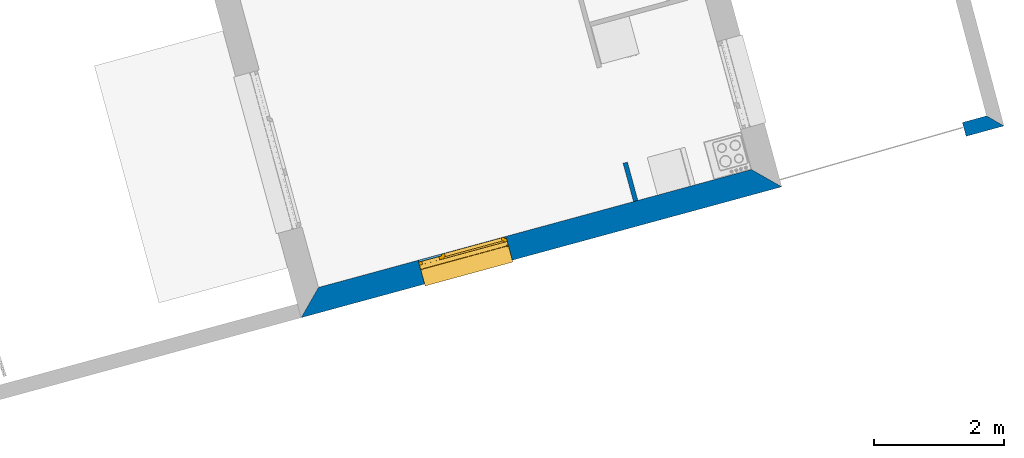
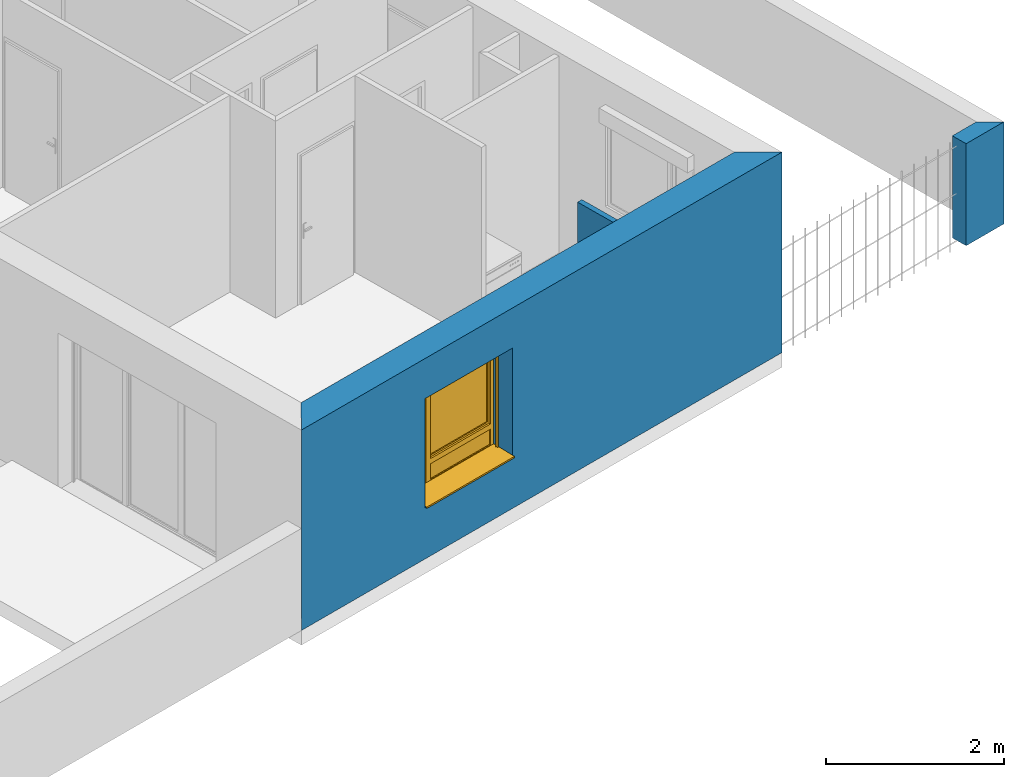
# One storey, part 70 of 195: 3 walls, 1 window, 1 opening.
"""IFC2X3 building model written with IfcOpenShell, lengths in metres."""

from ifc_helpers import new_model, entity, si_unit, converted_unit, derived_unit, money_unit, direction, frame, origin_with_axes, place, context, subcontext, project, spatial, polyline, outline, extrude, open_shell, faceted_brep, surface_model, source, transform, mapped, material, layer, layer_set, layer_usage, type_object, element, fill, save


model = new_model("IFC2X3")

# Units and contexts
model_context = context("Model", 3, precision=1e-05, world=origin_with_axes(), true_north=direction((0.0, 1.0)))
body_context = subcontext(model_context, "Body", "Model", "MODEL_VIEW")
ifc_project = project(units=[si_unit("LENGTHUNIT", "METRE"), si_unit("AREAUNIT", "SQUARE_METRE"), si_unit("VOLUMEUNIT", "CUBIC_METRE"), converted_unit("PLANEANGLEUNIT", "DEGREE", entity("IfcPlaneAngleMeasure", 0.0174532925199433), si_unit("PLANEANGLEUNIT", "RADIAN"), dimensions=[0, 0, 0, 0, 0, 0, 0]), money_unit("CHF"), converted_unit("TIMEUNIT", "Year", entity("IfcTimeMeasure", 31557600.0), si_unit("TIMEUNIT", "SECOND"), dimensions=[0, 0, 1, 0, 0, 0, 0]), si_unit("MASSUNIT", "GRAM", prefix="KILO"), si_unit("THERMODYNAMICTEMPERATUREUNIT", "DEGREE_CELSIUS"), si_unit("LUMINOUSINTENSITYUNIT", "LUMEN"), si_unit("ENERGYUNIT", "JOULE", prefix="MEGA"), derived_unit("THERMALCONDUCTANCEUNIT", [(si_unit("POWERUNIT", "WATT"), 1), (si_unit("LENGTHUNIT", "METRE"), -1), (si_unit("THERMODYNAMICTEMPERATUREUNIT", "KELVIN"), -1)]), derived_unit("SPECIFICHEATCAPACITYUNIT", [(si_unit("ENERGYUNIT", "JOULE"), 1), (si_unit("MASSUNIT", "GRAM", prefix="KILO"), -1), (si_unit("THERMODYNAMICTEMPERATUREUNIT", "KELVIN"), -1)]), derived_unit("MASSDENSITYUNIT", [(si_unit("MASSUNIT", "GRAM", prefix="KILO"), 1), (si_unit("VOLUMEUNIT", "CUBIC_METRE"), -1)])], contexts=[model_context])

# Site, building, storey
site_placement = place(None, origin_with_axes())
site = spatial("IfcSite", under=ifc_project, at=site_placement, Name="Site", CompositionType="ELEMENT")
building_placement = place(site_placement, origin_with_axes())
building = spatial("IfcBuilding", under=site, at=building_placement, Name="Bâtiment", CompositionType="ELEMENT")
storey_placement = place(building_placement, origin_with_axes())
storey = spatial("IfcBuildingStorey", under=building, at=storey_placement, Name="rdc", CompositionType="ELEMENT", Elevation=0.0)

# Wall
ifc_material_1 = material(Name="Hachure solide 268963992")
ifc_layer_1 = layer(ifc_material_1, 0.07, ventilated="UNKNOWN")
ifc_layer_set_1 = layer_set([ifc_layer_1], Name="Cloison 70 0826278243")
ifc_layer_usage_1 = layer_usage(ifc_layer_set_1, "AXIS2", "NEGATIVE", 0.0)
wall_type_1 = type_object("IfcWallType", Name="Cloison 70 0826278243 70", PredefinedType="NOTDEFINED")
wall_1_placement = place(storey_placement, frame((9594.76418549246, -1057.033527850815, 57.7), z_axis=(0.0, 0.0, 1.0), x_axis=(0.2627340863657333, -0.9648682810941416, 0.0)))
element("IfcWallStandardCase", 1, at=wall_1_placement, inside=storey, type_object=wall_type_1, material=ifc_layer_usage_1, Name="Mur-149", context=body_context, shape_type="SweptSolid", body=[
    extrude(outline(polyline([(0.0, -0.07000000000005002), (0.6120429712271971, -0.07000000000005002), (0.6120429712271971, 0.0), (0.0, 0.0), (0.0, -0.07000000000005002)])), origin_with_axes(), (0.0, 0.0, 1.0), 2.7),
])

# Wall, opening, window
ifc_material_2 = material(Name="Parpaing 312445824")
ifc_layer_2 = layer(ifc_material_2, 0.22, ventilated="UNKNOWN")
ifc_material_3 = material(Name="Isolant styromousse 301821074")
ifc_layer_3 = layer(ifc_material_3, 0.16, ventilated="UNKNOWN")
ifc_layer_set_2 = layer_set([ifc_layer_2, ifc_layer_3], Name="isol int 22+16 0836643197")
ifc_layer_usage_2 = layer_usage(ifc_layer_set_2, "AXIS2", "NEGATIVE", 0.0)
wall_type_2 = type_object("IfcWallType", Name="isol int 22+16 0836643197 380", PredefinedType="NOTDEFINED")
wall_2_placement = place(storey_placement, frame((9597.140845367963, -1057.414526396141, 57.7), z_axis=(0.0, 0.0, 1.0), x_axis=(-0.9648682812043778, -0.2627340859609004, 0.0)))
wall_2 = element("IfcWallStandardCase", 2, at=wall_2_placement, inside=storey, type_object=wall_type_2, material=ifc_layer_usage_2, Name="Mur-113", context=body_context, shape_type="SweptSolid", body=[
    extrude(outline(polyline([(0.3799999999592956, -0.3799999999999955), (7.289914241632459, -0.3799999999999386), (7.669914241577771, 0.0), (0.0, 0.0), (0.3799999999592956, -0.3799999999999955)])), origin_with_axes(), (0.0, 0.0, 1.0), 2.75),
])
opening_placement = place(wall_2_placement, frame((4.999563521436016, 0.0, 0.7000000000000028), z_axis=(0.0, 0.0, 1.0), x_axis=(1.0, 0.0, 0.0)))
opening = element("IfcOpeningElement", 3, at=opening_placement, cuts=wall_2, Name="Fen-045", context=body_context, shape_type="Brep", body=[
    faceted_brep([(-0.7000000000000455, -0.2999999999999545, 1.5), (-0.7000000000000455, -0.2200000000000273, 1.5), (-0.7000000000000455, 1.945352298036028, 1.5), (-0.7000000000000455, 1.945352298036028, 0.0), (-0.7000000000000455, -0.2999999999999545, 0.0), (-0.7000000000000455, -0.4799999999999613, 1.5), (-0.7000000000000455, -0.4799999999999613, 1.700000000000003), (-0.7000000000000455, -0.2200000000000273, 1.700000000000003), (0.6999999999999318, -0.2200000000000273, 1.5), (0.6999999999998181, 1.945352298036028, 1.5), (0.6999999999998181, 1.945352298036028, 0.0), (0.7000000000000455, -0.3000000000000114, 0.0), (-0.7000000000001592, -2.325352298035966, 0.0), (-0.7000000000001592, -2.325352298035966, 1.5), (0.6999999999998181, -0.4800000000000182, 1.5), (0.6999999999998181, -0.4800000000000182, 1.700000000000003), (0.6999999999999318, -0.2200000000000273, 1.700000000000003), (0.6999999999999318, -0.3000000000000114, 1.5), (0.6999999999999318, -2.325352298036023, 0.0), (0.6999999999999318, -2.325352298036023, 1.5)], [[[0, 1, 2, 3, 4]], [[1, 0, 5, 6, 7]], [[1, 8, 9, 2]], [[9, 10, 3, 2]], [[11, 4, 3, 10]], [[5, 0, 4, 12, 13]], [[5, 14, 15, 6]], [[15, 16, 7, 6]], [[8, 1, 7, 16]], [[8, 17, 11, 10, 9]], [[4, 11, 18, 12]], [[13, 12, 18, 19]], [[14, 5, 13, 19]], [[17, 8, 16, 15, 14]], [[17, 14, 19, 18, 11]]]),
])
window_style = type_object("IfcWindowStyle", Name="Fenêtre variable 27", ConstructionType="NOTDEFINED", OperationType="TRIPLE_PANEL_LEFT", ParameterTakesPrecedence=False, Sizeable=False)
shared_shape = source(origin_with_axes(), body_context, "Body", "SurfaceModel", [
    surface_model("IfcShellBasedSurfaceModel", [(0.7, -0.05100000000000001, 0.05), (-0.7, -0.05100000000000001, 0.05000000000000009), (-0.7, -0.05100000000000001, 0.04000000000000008), (0.7, -0.05100000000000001, 0.04), (-0.7, -0.3799999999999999, 0.02900000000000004), (0.7, -0.3799999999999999, 0.02899999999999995), (-0.7, -0.3799999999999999, 0.00900000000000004), (0.7, -0.3799999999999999, 0.008999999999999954), (-0.7, -0.3699999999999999, 0.01900000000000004), (0.7, -0.3699999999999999, 0.01899999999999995)], [open_shell([[[0, 1, 2, 3]], [[3, 2, 4, 5]], [[5, 4, 6, 7]], [[7, 6, 8, 9]]])]),
    faceted_brep([(0.7, -0.13, 1.7), (0.7, 0.13, 1.7), (0.697, 0.13, 1.7), (0.697, -0.13, 1.7), (0.7, -0.13, 1.5), (0.7, 0.13, 1.5), (0.697, 0.13, 1.5), (0.697, -0.13, 1.5)], [[[0, 1, 2, 3]], [[0, 4, 5, 1]], [[1, 5, 6, 2]], [[3, 2, 6, 7]], [[4, 0, 3, 7]], [[5, 4, 7, 6]]]),
    faceted_brep([(-0.6970000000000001, -0.1299999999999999, 1.7), (-0.6970000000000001, 0.1300000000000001, 1.7), (-0.7000000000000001, 0.1300000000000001, 1.7), (-0.7000000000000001, -0.1299999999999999, 1.7), (-0.6970000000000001, -0.1299999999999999, 1.5), (-0.6970000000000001, 0.1300000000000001, 1.5), (-0.7000000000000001, 0.1300000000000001, 1.5), (-0.7000000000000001, -0.1299999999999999, 1.5)], [[[0, 1, 2, 3]], [[0, 4, 5, 1]], [[1, 5, 6, 2]], [[3, 2, 6, 7]], [[4, 0, 3, 7]], [[5, 4, 7, 6]]]),
    faceted_brep([(0.697, -0.13, 1.5), (0.697, -0.13, 1.7), (-0.697, -0.1299999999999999, 1.7), (-0.697, -0.1299999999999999, 1.5), (0.697, -0.127, 1.5), (0.697, -0.127, 1.697), (0.697, 0.127, 1.697), (0.697, 0.127, 1.503), (0.697, -0.108, 1.503), (0.697, -0.108, 1.5), (0.697, 0.13, 1.5), (0.697, 0.13, 1.7), (-0.697, 0.1300000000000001, 1.7), (-0.697, 0.1300000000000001, 1.5), (-0.697, -0.1079999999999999, 1.5), (-0.697, -0.1079999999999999, 1.503), (-0.697, 0.1270000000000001, 1.503), (-0.697, 0.1270000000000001, 1.697), (-0.697, -0.1269999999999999, 1.697), (-0.697, -0.1269999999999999, 1.5)], [[[0, 1, 2, 3]], [[0, 4, 5, 6, 7, 8, 9, 10, 11, 1]], [[1, 11, 12, 2]], [[3, 2, 12, 13, 14, 15, 16, 17, 18, 19]], [[4, 0, 3, 19]], [[5, 4, 19, 18]], [[6, 5, 18, 17]], [[7, 6, 17, 16]], [[8, 7, 16, 15]], [[9, 8, 15, 14]], [[10, 9, 14, 13]], [[11, 10, 13, 12]]]),
    faceted_brep([(0.694, -0.08075423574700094, 1.585760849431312), (0.694, -0.07705479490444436, 1.571954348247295), (0.694, -0.07101408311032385, 1.559), (0.694, -0.06281564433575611, 1.547291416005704), (0.694, -0.05270858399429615, 1.537184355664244), (0.694, -0.04099999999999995, 1.528985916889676), (0.694, -0.02804565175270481, 1.522945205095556), (0.694, -0.01423915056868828, 1.519245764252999), (0.694, 0.0, 1.518), (0.694, 0.01423915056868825, 1.519245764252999), (0.694, 0.02804565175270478, 1.522945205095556), (0.694, 0.04099999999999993, 1.528985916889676), (0.694, 0.05270858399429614, 1.537184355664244), (0.694, 0.06281564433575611, 1.547291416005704), (0.694, 0.07101408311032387, 1.559), (0.694, 0.07705479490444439, 1.571954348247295), (0.694, 0.08075423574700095, 1.585760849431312), (0.694, 0.0819999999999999, 1.6), (0.694, 0.08075423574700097, 1.614239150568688), (0.694, 0.0770547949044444, 1.628045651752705), (0.694, 0.07101408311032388, 1.641), (0.694, 0.06281564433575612, 1.652708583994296), (0.694, 0.05270858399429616, 1.662815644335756), (0.694, 0.04099999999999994, 1.671014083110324), (0.694, 0.02804565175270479, 1.677054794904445), (0.694, 0.01423915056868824, 1.680754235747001), (0.694, 0.0, 1.682), (0.694, -0.01423915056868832, 1.680754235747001), (0.694, -0.02804565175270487, 1.677054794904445), (0.694, -0.04100000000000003, 1.671014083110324), (0.694, -0.05270858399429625, 1.662815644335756), (0.694, -0.06281564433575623, 1.652708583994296), (0.694, -0.07101408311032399, 1.641), (0.694, -0.07705479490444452, 1.628045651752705), (0.694, -0.0807542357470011, 1.614239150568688), (0.694, -0.08200000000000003, 1.6), (-0.694, -0.08075423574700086, 1.585760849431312), (-0.694, -0.07705479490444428, 1.571954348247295), (-0.694, -0.07101408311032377, 1.559), (-0.694, -0.06281564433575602, 1.547291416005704), (-0.694, -0.05270858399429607, 1.537184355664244), (-0.694, -0.04099999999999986, 1.528985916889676), (-0.694, -0.02804565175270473, 1.522945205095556), (-0.694, -0.0142391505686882, 1.519245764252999), (-0.694, 0.0, 1.518), (-0.694, 0.01423915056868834, 1.519245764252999), (-0.694, 0.02804565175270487, 1.522945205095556), (-0.694, 0.04100000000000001, 1.528985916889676), (-0.694, 0.05270858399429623, 1.537184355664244), (-0.694, 0.06281564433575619, 1.547291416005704), (-0.694, 0.07101408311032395, 1.559), (-0.694, 0.07705479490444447, 1.571954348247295), (-0.694, 0.08075423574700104, 1.585760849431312), (-0.694, 0.08199999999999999, 1.6), (-0.694, 0.08075423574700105, 1.614239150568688), (-0.694, 0.07705479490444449, 1.628045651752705), (-0.694, 0.07101408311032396, 1.641), (-0.694, 0.0628156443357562, 1.652708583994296), (-0.694, 0.05270858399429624, 1.662815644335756), (-0.694, 0.04100000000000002, 1.671014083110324), (-0.694, 0.02804565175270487, 1.677054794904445), (-0.694, 0.01423915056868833, 1.680754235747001), (-0.694, 0.0, 1.682), (-0.694, -0.01423915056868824, 1.680754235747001), (-0.694, -0.02804565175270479, 1.677054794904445), (-0.694, -0.04099999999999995, 1.671014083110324), (-0.694, -0.05270858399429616, 1.662815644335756), (-0.694, -0.06281564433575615, 1.652708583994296), (-0.694, -0.07101408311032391, 1.641), (-0.694, -0.07705479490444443, 1.628045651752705), (-0.694, -0.08075423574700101, 1.614239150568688), (-0.694, -0.08199999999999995, 1.6)], [[[0, 1, 2, 3, 4, 5, 6, 7, 8, 9, 10, 11, 12, 13, 14, 15, 16, 17, 18, 19, 20, 21, 22, 23, 24, 25, 26, 27, 28, 29, 30, 31, 32, 33, 34, 35]], [[1, 0, 36, 37]], [[2, 1, 37, 38]], [[3, 2, 38, 39]], [[4, 3, 39, 40]], [[5, 4, 40, 41]], [[6, 5, 41, 42]], [[7, 6, 42, 43]], [[8, 7, 43, 44]], [[9, 8, 44, 45]], [[10, 9, 45, 46]], [[11, 10, 46, 47]], [[12, 11, 47, 48]], [[13, 12, 48, 49]], [[14, 13, 49, 50]], [[15, 14, 50, 51]], [[16, 15, 51, 52]], [[17, 16, 52, 53]], [[18, 17, 53, 54]], [[19, 18, 54, 55]], [[20, 19, 55, 56]], [[21, 20, 56, 57]], [[22, 21, 57, 58]], [[23, 22, 58, 59]], [[24, 23, 59, 60]], [[25, 24, 60, 61]], [[26, 25, 61, 62]], [[27, 26, 62, 63]], [[28, 27, 63, 64]], [[29, 28, 64, 65]], [[30, 29, 65, 66]], [[31, 30, 66, 67]], [[32, 31, 67, 68]], [[33, 32, 68, 69]], [[34, 33, 69, 70]], [[35, 34, 70, 71]], [[0, 35, 71, 36]], [[36, 71, 70, 69, 68, 67, 66, 65, 64, 63, 62, 61, 60, 59, 58, 57, 56, 55, 54, 53, 52, 51, 50, 49, 48, 47, 46, 45, 44, 43, 42, 41, 40, 39, 38, 37]]]),
    faceted_brep([(-0.7, -0.105, 0.03), (-0.7, -0.13, 0.03), (-0.7, -0.1299999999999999, 1.5), (-0.7, -0.1049999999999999, 1.5), (-0.6749999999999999, -0.105, 0.03), (-0.6749999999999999, -0.108, 0.03), (-0.697, -0.108, 0.03), (-0.697, -0.127, 0.03), (-0.6749999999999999, -0.127, 0.03), (-0.6749999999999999, -0.13, 0.03), (-0.6749999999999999, -0.1299999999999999, 1.5), (-0.6749999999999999, -0.1269999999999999, 1.5), (-0.697, -0.1269999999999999, 1.5), (-0.697, -0.1079999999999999, 1.5), (-0.6749999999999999, -0.1079999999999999, 1.5), (-0.6749999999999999, -0.1049999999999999, 1.5)], [[[0, 1, 2, 3]], [[0, 4, 5, 6, 7, 8, 9, 1]], [[1, 9, 10, 2]], [[3, 2, 10, 11, 12, 13, 14, 15]], [[4, 0, 3, 15]], [[5, 4, 15, 14]], [[6, 5, 14, 13]], [[7, 6, 13, 12]], [[8, 7, 12, 11]], [[9, 8, 11, 10]]]),
    faceted_brep([(0.7, -0.105, 0.03), (0.7, -0.1049999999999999, 1.5), (0.7, -0.1299999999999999, 1.5), (0.7, -0.13, 0.03), (0.6749999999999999, -0.105, 0.03), (0.6749999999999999, -0.1049999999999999, 1.5), (0.6749999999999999, -0.1079999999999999, 1.5), (0.697, -0.1079999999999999, 1.5), (0.697, -0.1269999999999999, 1.5), (0.6749999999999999, -0.1269999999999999, 1.5), (0.6749999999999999, -0.1299999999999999, 1.5), (0.6749999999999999, -0.13, 0.03), (0.6749999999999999, -0.127, 0.03), (0.697, -0.127, 0.03), (0.697, -0.108, 0.03), (0.6749999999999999, -0.108, 0.03)], [[[0, 1, 2, 3]], [[4, 5, 1, 0]], [[1, 5, 6, 7, 8, 9, 10, 2]], [[3, 2, 10, 11]], [[0, 3, 11, 12, 13, 14, 15, 4]], [[15, 6, 5, 4]], [[14, 7, 6, 15]], [[13, 8, 7, 14]], [[12, 9, 8, 13]], [[11, 10, 9, 12]]]),
    surface_model("IfcShellBasedSurfaceModel", [(0.697, -0.115, 1.6), (-0.697, -0.1149999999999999, 1.6), (-0.697, -0.12, 1.6), (0.697, -0.12, 1.6), (0.697, -0.115, 1.6), (0.697, -0.12, 1.6), (-0.697, -0.1199999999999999, 1.6), (-0.697, -0.1149999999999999, 1.6)], [open_shell([[[0, 1, 2, 3]], [[4, 5, 6, 7]]])]),
    faceted_brep([(0.697, -0.115, 1.6), (0.697, -0.1166666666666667, 1.583333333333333), (-0.697, -0.1166666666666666, 1.583333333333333), (-0.697, -0.1149999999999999, 1.6), (0.697, -0.12, 1.6), (0.697, -0.1216666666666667, 1.583333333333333), (0.697, -0.1216666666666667, 1.566666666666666), (0.697, -0.12, 1.55), (0.697, -0.115, 1.55), (0.697, -0.1166666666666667, 1.566666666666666), (-0.697, -0.1166666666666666, 1.566666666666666), (-0.697, -0.1149999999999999, 1.55), (-0.697, -0.1199999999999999, 1.55), (-0.697, -0.1216666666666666, 1.566666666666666), (-0.697, -0.1216666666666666, 1.583333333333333), (-0.697, -0.1199999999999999, 1.6)], [[[0, 1, 2, 3]], [[0, 4, 5, 6, 7, 8, 9, 1]], [[1, 9, 10, 2]], [[3, 2, 10, 11, 12, 13, 14, 15]], [[4, 0, 3, 15]], [[5, 4, 15, 14]], [[6, 5, 14, 13]], [[7, 6, 13, 12]], [[8, 7, 12, 11]], [[9, 8, 11, 10]]]),
    faceted_brep([(0.697, -0.115, 1.55), (0.697, -0.1166666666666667, 1.533333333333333), (-0.697, -0.1166666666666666, 1.533333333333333), (-0.697, -0.1149999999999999, 1.55), (0.697, -0.12, 1.55), (0.697, -0.1216666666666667, 1.533333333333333), (0.697, -0.1216666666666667, 1.516666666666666), (0.697, -0.12, 1.5), (0.697, -0.115, 1.5), (0.697, -0.1166666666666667, 1.516666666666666), (-0.697, -0.1166666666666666, 1.516666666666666), (-0.697, -0.1149999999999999, 1.5), (-0.697, -0.1199999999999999, 1.5), (-0.697, -0.1216666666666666, 1.516666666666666), (-0.697, -0.1216666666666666, 1.533333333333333), (-0.697, -0.1199999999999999, 1.55)], [[[0, 1, 2, 3]], [[0, 4, 5, 6, 7, 8, 9, 1]], [[1, 9, 10, 2]], [[3, 2, 10, 11, 12, 13, 14, 15]], [[4, 0, 3, 15]], [[5, 4, 15, 14]], [[6, 5, 14, 13]], [[7, 6, 13, 12]], [[8, 7, 12, 11]], [[9, 8, 11, 10]]]),
    faceted_brep([(0.6749999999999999, 0.0, 1.45), (0.6749999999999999, -0.02500000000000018, 1.45), (0.6499999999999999, -0.02500000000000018, 1.45), (0.6499999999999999, -0.05000000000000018, 1.45), (0.7, -0.05000000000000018, 1.45), (0.7, 0.0, 1.45), (0.6749999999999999, 0.0, 0.3099999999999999), (0.6749999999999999, -0.02500000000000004, 0.3099999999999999), (0.6499999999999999, -0.02500000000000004, 0.335), (0.6499999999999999, -0.02500000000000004, 0.3099999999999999), (0.6499999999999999, -0.05000000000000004, 0.335), (0.6499999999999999, -0.05000000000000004, 0.265), (0.6499999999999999, -0.05000000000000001, 0.05000000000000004), (0.7, -0.05000000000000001, 0.05000000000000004), (0.7, 0.0, 0.05000000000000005), (0.6499999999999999, 0.0, 0.05000000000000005), (0.6499999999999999, 0.0, 0.265), (0.6499999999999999, 0.0, 0.3099999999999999)], [[[0, 1, 2, 3, 4, 5]], [[1, 0, 6, 7]], [[8, 2, 1, 7, 9]], [[2, 8, 10, 3]], [[10, 11, 12, 13, 4, 3]], [[5, 4, 13, 14]], [[6, 0, 5, 14, 15, 16, 17]], [[6, 17, 9, 7]], [[9, 17, 16, 11, 10, 8]], [[15, 12, 11, 16]], [[14, 13, 12, 15]]]),
    faceted_brep([(-0.3068894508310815, -0.02500000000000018, 1.45), (-0.3318894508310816, -0.02500000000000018, 1.45), (-0.3318894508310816, 0.0, 1.45), (-0.3768894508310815, 0.0, 1.45), (-0.3768894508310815, -0.05000000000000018, 1.45), (-0.3068894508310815, -0.05000000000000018, 1.45), (-0.3068894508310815, -0.02500000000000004, 0.335), (-0.3068894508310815, -0.02500000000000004, 0.3099999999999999), (-0.3318894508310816, -0.02500000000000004, 0.3099999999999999), (-0.3318894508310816, 0.0, 0.3099999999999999), (-0.3068894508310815, 0.0, 0.3099999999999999), (-0.3068894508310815, 0.0, 0.265), (-0.3068894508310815, 0.0, 0.05000000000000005), (-0.3768894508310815, 0.0, 0.05000000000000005), (-0.3768894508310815, -0.05000000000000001, 0.05000000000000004), (-0.3068894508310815, -0.05000000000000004, 0.265), (-0.3068894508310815, -0.05000000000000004, 0.335), (-0.3068894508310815, -0.05000000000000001, 0.05000000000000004)], [[[0, 1, 2, 3, 4, 5]], [[1, 0, 6, 7, 8]], [[9, 2, 1, 8]], [[9, 10, 11, 12, 13, 3, 2]], [[13, 14, 4, 3]], [[15, 16, 5, 4, 14, 17]], [[6, 0, 5, 16]], [[7, 6, 16, 15, 11, 10]], [[10, 9, 8, 7]], [[11, 15, 17, 12]], [[12, 17, 14, 13]]]),
    faceted_brep([(0.6499999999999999, -0.02500000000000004, 0.335), (-0.3068894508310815, -0.02500000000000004, 0.335), (-0.3068894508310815, -0.05000000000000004, 0.335), (0.6499999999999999, -0.05000000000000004, 0.335), (-0.3068894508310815, -0.02500000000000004, 0.3099999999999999), (0.6499999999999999, -0.02500000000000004, 0.3099999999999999), (-0.3068894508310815, 0.0, 0.3099999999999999), (-0.3068894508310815, 0.0, 0.265), (-0.3068894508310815, -0.05000000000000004, 0.265), (0.6499999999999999, -0.05000000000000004, 0.265), (0.6499999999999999, 0.0, 0.265), (0.6499999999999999, 0.0, 0.3099999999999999)], [[[0, 1, 2, 3]], [[4, 1, 0, 5]], [[4, 6, 7, 8, 2, 1]], [[2, 8, 9, 3]], [[5, 0, 3, 9, 10, 11]], [[11, 6, 4, 5]], [[6, 11, 10, 7]], [[10, 9, 8, 7]]]),
    faceted_brep([(0.6749999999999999, 0.0, 1.45), (0.6749999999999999, 0.0, 1.475), (-0.3318894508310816, 0.0, 1.475), (-0.3318894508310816, 0.0, 1.45), (-0.3768894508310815, 0.0, 1.45), (-0.6499999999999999, 0.0, 1.45), (-0.7, 0.0, 1.45), (-0.7, 0.0, 1.5), (0.7, 0.0, 1.5), (0.7, 0.0, 1.45), (0.6749999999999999, -0.02500000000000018, 1.45), (0.6749999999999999, -0.02500000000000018, 1.475), (-0.3318894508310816, -0.02500000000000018, 1.475), (-0.3318894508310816, -0.02500000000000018, 1.45), (-0.3068894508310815, -0.02500000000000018, 1.45), (-0.3068894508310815, -0.05000000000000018, 1.45), (-0.3768894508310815, -0.05000000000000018, 1.45), (-0.6499999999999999, -0.05000000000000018, 1.45), (-0.7, -0.05000000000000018, 1.45), (-0.7, -0.05000000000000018, 1.5), (0.7, -0.05000000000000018, 1.5), (0.7, -0.05000000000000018, 1.45), (0.6499999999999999, -0.05000000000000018, 1.45), (0.6499999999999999, -0.02500000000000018, 1.45)], [[[0, 1, 2, 3, 4, 5, 6, 7, 8, 9]], [[1, 0, 10, 11]], [[2, 1, 11, 12]], [[3, 2, 12, 13]], [[13, 14, 15, 16, 4, 3]], [[4, 16, 17, 5]], [[5, 17, 18, 6]], [[6, 18, 19, 7]], [[7, 19, 20, 8]], [[8, 20, 21, 9]], [[10, 0, 9, 21, 22, 23]], [[14, 13, 12, 11, 10, 23]], [[14, 23, 22, 15]], [[16, 15, 22, 21, 20, 19, 18, 17]]]),
    faceted_brep([(-0.6499999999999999, -0.05000000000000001, 0.05), (-0.7, -0.05000000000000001, 0.05), (-0.7, 0.0, 0.05000000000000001), (-0.6499999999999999, 0.0, 0.05000000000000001), (-0.6499999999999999, -0.05000000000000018, 1.45), (-0.7, -0.05000000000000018, 1.45), (-0.7, 0.0, 1.45), (-0.6499999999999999, 0.0, 1.45)], [[[0, 1, 2, 3]], [[0, 4, 5, 1]], [[1, 5, 6, 2]], [[3, 2, 6, 7]], [[4, 0, 3, 7]], [[5, 4, 7, 6]]]),
    faceted_brep([(0.6499999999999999, -0.05000000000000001, 0.05), (0.7, -0.05000000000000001, 0.05), (0.7, 0.0, 0.05000000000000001), (0.6499999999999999, 0.0, 0.05000000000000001), (-0.3068894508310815, -0.05000000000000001, 0.05), (-0.3768894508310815, -0.05000000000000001, 0.05), (-0.6499999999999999, -0.05000000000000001, 0.05), (-0.7, -0.05000000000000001, 0.05), (-0.7, -0.05, 0.0), (0.7, -0.05, 0.0), (0.7, 0.0, 0.0), (-0.7, 0.0, 0.0), (-0.7, 0.0, 0.05000000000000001), (-0.6499999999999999, 0.0, 0.05000000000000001), (-0.3768894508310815, 0.0, 0.05000000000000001), (-0.3068894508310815, 0.0, 0.05000000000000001)], [[[0, 1, 2, 3]], [[0, 4, 5, 6, 7, 8, 9, 1]], [[1, 9, 10, 2]], [[3, 2, 10, 11, 12, 13, 14, 15]], [[4, 0, 3, 15]], [[5, 4, 15, 14]], [[6, 5, 14, 13]], [[7, 6, 13, 12]], [[8, 7, 12, 11]], [[9, 8, 11, 10]]]),
    faceted_brep([(0.625, -0.02500000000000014, 1.425), (0.6749999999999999, -0.02500000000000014, 1.425), (0.6749999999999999, 0.02499999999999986, 1.425), (0.625, 0.02499999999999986, 1.425), (0.625, -0.02500000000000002, 0.3599999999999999), (0.6749999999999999, -0.02500000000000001, 0.3599999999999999), (0.6749999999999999, 0.02499999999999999, 0.3599999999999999), (0.625, 0.02499999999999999, 0.3599999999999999)], [[[0, 1, 2, 3]], [[0, 4, 5, 1]], [[1, 5, 6, 2]], [[3, 2, 6, 7]], [[4, 0, 3, 7]], [[5, 4, 7, 6]]]),
    faceted_brep([(-0.2818894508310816, -0.02500000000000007, 0.3599999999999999), (-0.3318894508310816, -0.02500000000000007, 0.3599999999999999), (-0.3318894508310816, 0.02499999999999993, 0.3599999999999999), (-0.2818894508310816, 0.02499999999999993, 0.3599999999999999), (-0.2818894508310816, -0.0250000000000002, 1.425), (-0.3318894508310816, -0.0250000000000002, 1.425), (-0.3318894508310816, 0.0249999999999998, 1.425), (-0.2818894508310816, 0.0249999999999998, 1.425)], [[[0, 1, 2, 3]], [[0, 4, 5, 1]], [[1, 5, 6, 2]], [[3, 2, 6, 7]], [[4, 0, 3, 7]], [[5, 4, 7, 6]]]),
    faceted_brep([(-0.3318894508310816, -0.02500000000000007, 0.3099999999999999), (-0.3318894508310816, -0.02500000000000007, 0.3599999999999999), (-0.3318894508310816, 0.02499999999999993, 0.3599999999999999), (-0.3318894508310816, 0.02499999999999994, 0.3099999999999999), (0.6749999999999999, -0.025, 0.3099999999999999), (0.6749999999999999, -0.02500000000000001, 0.3599999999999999), (0.625, -0.02500000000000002, 0.3599999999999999), (-0.2818894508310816, -0.02500000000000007, 0.3599999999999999), (-0.2818894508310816, 0.02499999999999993, 0.3599999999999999), (0.625, 0.02499999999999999, 0.3599999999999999), (0.6749999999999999, 0.02499999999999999, 0.3599999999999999), (0.6749999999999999, 0.02499999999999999, 0.3099999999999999)], [[[0, 1, 2, 3]], [[0, 4, 5, 6, 7, 1]], [[1, 7, 8, 2]], [[3, 2, 8, 9, 10, 11]], [[4, 0, 3, 11]], [[5, 4, 11, 10]], [[6, 5, 10, 9]], [[7, 6, 9, 8]]]),
    faceted_brep([(0.6749999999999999, -0.02500000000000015, 1.475), (0.6749999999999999, -0.02500000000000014, 1.425), (0.6749999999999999, 0.02499999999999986, 1.425), (0.6749999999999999, 0.02499999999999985, 1.475), (-0.3318894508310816, -0.02500000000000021, 1.475), (-0.3318894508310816, -0.0250000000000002, 1.425), (-0.2818894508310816, -0.0250000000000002, 1.425), (0.625, -0.02500000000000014, 1.425), (0.625, 0.02499999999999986, 1.425), (-0.2818894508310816, 0.0249999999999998, 1.425), (-0.3318894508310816, 0.0249999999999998, 1.425), (-0.3318894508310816, 0.02499999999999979, 1.475)], [[[0, 1, 2, 3]], [[0, 4, 5, 6, 7, 1]], [[1, 7, 8, 2]], [[3, 2, 8, 9, 10, 11]], [[4, 0, 3, 11]], [[5, 4, 11, 10]], [[6, 5, 10, 9]], [[7, 6, 9, 8]]]),
    surface_model("IfcShellBasedSurfaceModel", [(0.625, -0.01000000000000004, 0.3599999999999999), (0.625, -0.01000000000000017, 1.425), (-0.2818894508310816, -0.01000000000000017, 1.425), (-0.2818894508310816, -0.01000000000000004, 0.3599999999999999)], [open_shell([[[0, 1, 2, 3]]])]),
    surface_model("IfcShellBasedSurfaceModel", [(0.625, 0.009999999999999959, 0.3599999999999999), (-0.2818894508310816, 0.009999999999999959, 0.3599999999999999), (-0.2818894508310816, 0.00999999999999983, 1.425), (0.625, 0.00999999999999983, 1.425)], [open_shell([[[0, 1, 2, 3]]])]),
    surface_model("IfcShellBasedSurfaceModel", [(-0.3768894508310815, -0.035, 0.05), (-0.3768894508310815, -0.03500000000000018, 1.45), (-0.65, -0.03500000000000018, 1.45), (-0.65, -0.035, 0.05)], [open_shell([[[0, 1, 2, 3]]])]),
    surface_model("IfcShellBasedSurfaceModel", [(-0.3768894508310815, -0.015, 0.05), (-0.65, -0.015, 0.05), (-0.65, -0.01500000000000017, 1.45), (-0.3768894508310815, -0.01500000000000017, 1.45)], [open_shell([[[0, 1, 2, 3]]])]),
    surface_model("IfcShellBasedSurfaceModel", [(0.6499999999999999, -0.035, 0.05), (0.6499999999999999, -0.03500000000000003, 0.265), (-0.3068894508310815, -0.03500000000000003, 0.265), (-0.3068894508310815, -0.035, 0.05)], [open_shell([[[0, 1, 2, 3]]])]),
    surface_model("IfcShellBasedSurfaceModel", [(0.6499999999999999, -0.015, 0.05), (-0.3068894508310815, -0.015, 0.05), (-0.3068894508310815, -0.01500000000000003, 0.265), (0.6499999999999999, -0.01500000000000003, 0.265)], [open_shell([[[0, 1, 2, 3]]])]),
])
window_placement = place(opening_placement, frame((0.6999999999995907, 0.0, 0.0), z_axis=(0.0, 0.0, 1.0), x_axis=(-1.0, 0.0, 0.0)))
window = element("IfcWindow", 4, at=window_placement, inside=storey, type_object=window_style, Name="Fen-045", OverallHeight=1.5, OverallWidth=1.4, context=body_context, shape_type="MappedRepresentation", body=[
    mapped(shared_shape, transform((0.7000000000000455, 0.3500000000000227, 0.0))),
])
fill(opening, window)

# Wall
ifc_material_4 = material(Name="Empty Fill 3000033799")
ifc_layer_4 = layer(ifc_material_4, 0.22, ventilated="UNKNOWN")
ifc_layer_set_3 = layer_set([ifc_layer_4], Name="acrotère 22")
ifc_layer_usage_3 = layer_usage(ifc_layer_set_3, "AXIS2", "NEGATIVE", 0.0)
wall_type_3 = type_object("IfcWallType", Name="acrotère 22 220", PredefinedType="NOTDEFINED")
wall_3_placement = place(storey_placement, frame((9599.920678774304, -1056.42447243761, 57.7), z_axis=(0.0, 0.0, 1.0), x_axis=(0.9644281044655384, 0.2643452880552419, 0.0)))
element("IfcWallStandardCase", 5, at=wall_3_placement, inside=storey, type_object=wall_type_3, material=ifc_layer_usage_3, Name="Mur-108", context=body_context, shape_type="SweptSolid", body=[
    extrude(outline(polyline([(0.0, -0.2199999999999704), (0.604476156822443, -0.2199999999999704), (0.3861551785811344, 0.0), (0.0, 0.0), (0.0, -0.2199999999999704)])), origin_with_axes(), (0.0, 0.0, 1.0), 1.4),
])

save(model, "model.ifc")
